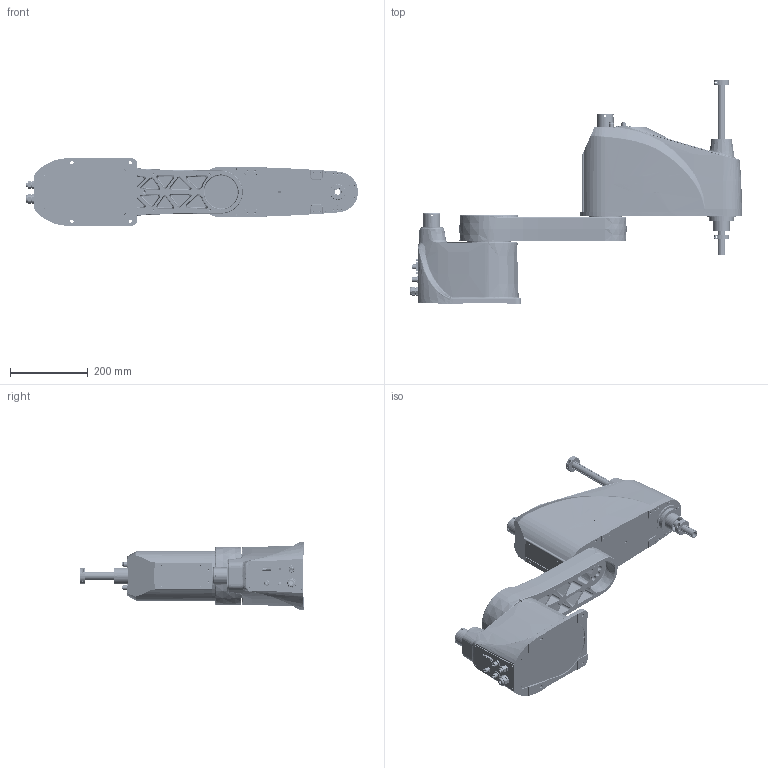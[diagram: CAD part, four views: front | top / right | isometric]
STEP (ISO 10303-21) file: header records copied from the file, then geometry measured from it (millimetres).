
FILE_DESCRIPTION(('STEP AP214'),'1');
FILE_NAME('TR005-HP600.stp','2021-08-03T06:51:07',(' '),(' '),'Spatial InterOp 3D',' ',' ');
FILE_SCHEMA(('AUTOMOTIVE_DESIGN { 1 0 10303 214 1 1 1 1 }'));
Length unit declared in the file: millimetre
Products named in the file (7): TR005-HP600 ____; J1; J2; J3; BASE; ____; TR005-HP600 ______
Assembly tree (6 placements, depth 3):
  TR005-HP600 ____
    J1
    J2
    J3
    BASE
      ____
      TR005-HP600 ______
Bounding box: 854.8 x 576 x 174 mm (x, y, z)
Volume: 5117778.2 mm3; surface area: 1509493.3 mm2
Topology: 39 solids, 39 shells, 4326 faces, 10972 edges, 6763 vertices
Faces by surface type: cylinder 1434, plane 1361, cone 765, bspline 682, torus 84
Entity records: 213226 total; most frequent: CARTESIAN_POINT 78618, ORIENTED_EDGE 21292, DIRECTION 20172, EDGE_CURVE 10646, AXIS2_PLACEMENT_3D 7947, VERTEX_POINT 6747, EDGE_LOOP 5065, STYLED_ITEM 4365
